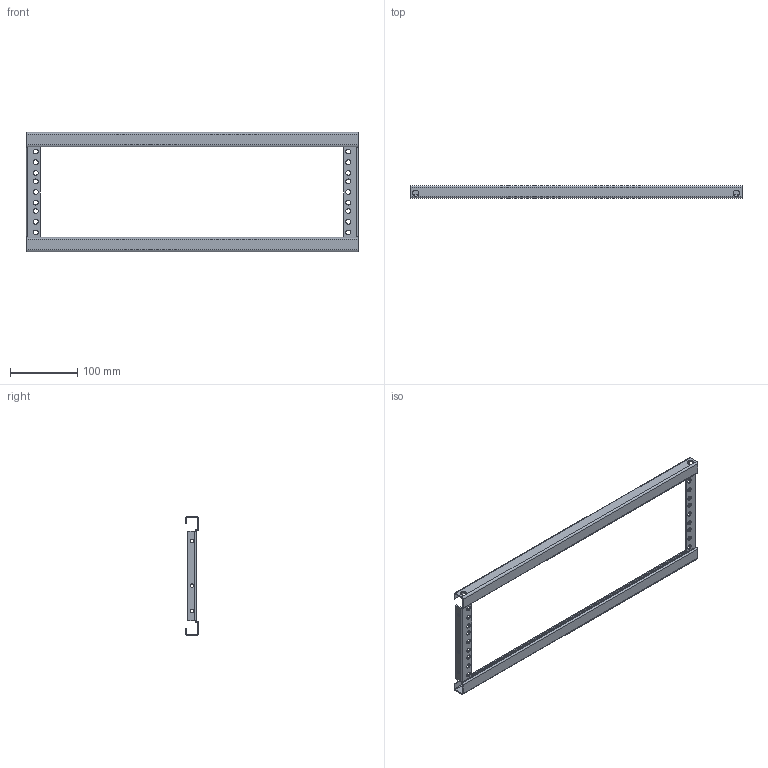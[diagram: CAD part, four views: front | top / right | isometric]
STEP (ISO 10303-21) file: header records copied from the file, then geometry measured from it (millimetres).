
FILE_DESCRIPTION(/* description */ ('Unknown'),/* implementation_level */ '2;1');
FILE_NAME(/* name */ 'CBA1975LG1',/* time_stamp */ '2020-05-19T11:39:21-04:00',/* author */ ('Unknown'),/* organization */ ('Unknown'),/* preprocessor_version */ 'ST-DEVELOPER v16.7',/* originating_system */ 'Solid Edge',/* authorisation */ 'Unknown');
FILE_SCHEMA (('AUTOMOTIVE_DESIGN {1 0 10303 214 3 1 1}'));
Length unit declared in the file: millimetre
Products named in the file (1): COM50139
Bounding box: 495.3 x 19.05 x 177.8 mm (x, y, z)
Volume: 101306.1 mm3; surface area: 116726.9 mm2
Topology: 1 solids, 1 shells, 94 faces, 286 edges, 192 vertices
Faces by surface type: plane 48, cylinder 46
Full cylindrical faces by diameter (mm): 4.928 x6, 7.137 x18, 9.525 x2
Entity records: 3061 total; most frequent: DIRECTION 530, CARTESIAN_POINT 507, ORIENTED_EDGE 480, EDGE_CURVE 240, AXIS2_PLACEMENT_3D 195, VERTEX_POINT 172, EDGE_LOOP 172, FACE_BOUND 172
